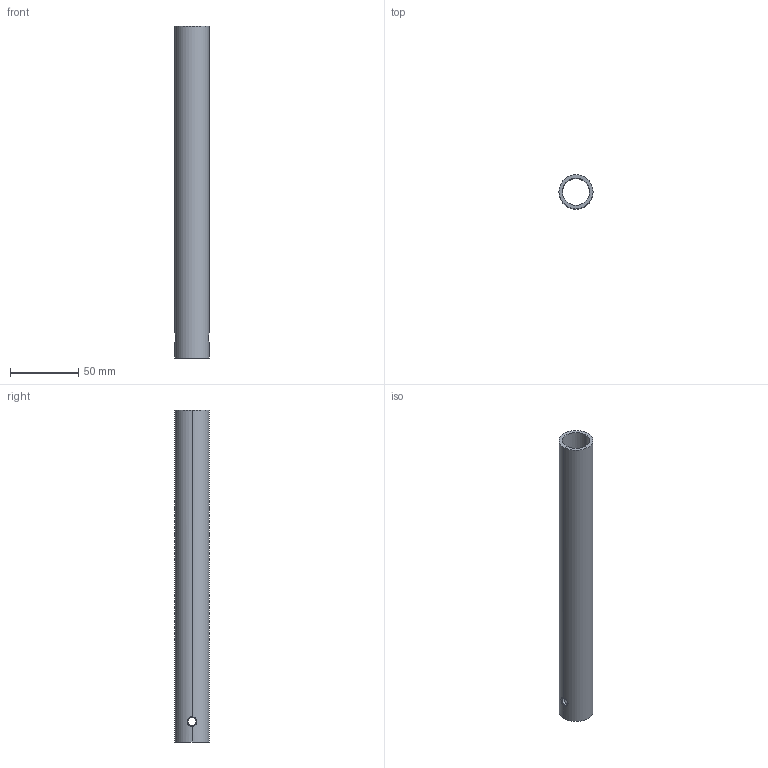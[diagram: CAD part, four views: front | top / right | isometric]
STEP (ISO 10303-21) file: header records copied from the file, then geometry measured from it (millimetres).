
FILE_DESCRIPTION (( 'STEP AP214' ), '1' );
FILE_NAME ('Tige de vérin.STEP', '2005-04-06T20:45:12', ( 'frantz' ), ( '' ), 'SwSTEP 2.0', 'SolidWorks 2004104', '' );
FILE_SCHEMA (( 'AUTOMOTIVE_DESIGN' ));
Length unit declared in the file: centimetre
Products named in the file (1): Tige de vérin
Bounding box: 25 x 25 x 244 mm (x, y, z)
Volume: 42969 mm3; surface area: 34815.5 mm2
Topology: 1 solids, 1 shells, 14 faces, 44 edges, 28 vertices
Faces by surface type: cylinder 8, bspline 4, plane 2
Entity records: 1623 total; most frequent: CARTESIAN_POINT 1251, ORIENTED_EDGE 88, DIRECTION 50, EDGE_CURVE 44, VERTEX_POINT 28, B_SPLINE_CURVE_WITH_KNOTS 24, AXIS2_PLACEMENT_3D 19, EDGE_LOOP 16
